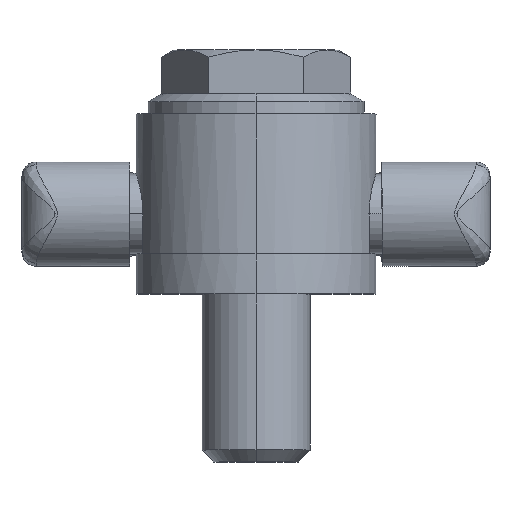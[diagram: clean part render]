
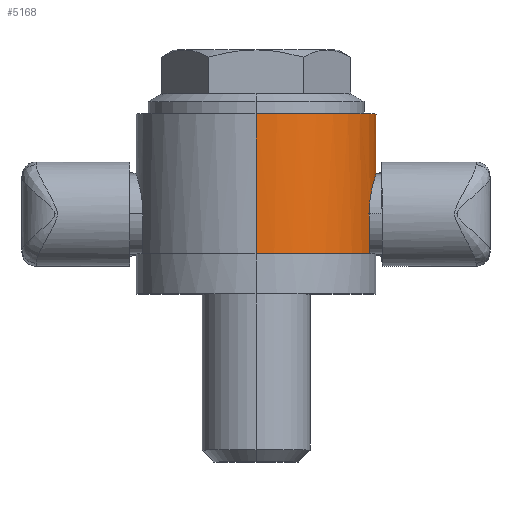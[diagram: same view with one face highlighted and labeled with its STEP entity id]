
A CAD part, top view. The second image highlights one B-rep face of the part: STEP entity #5168.
In plain terms, the highlighted cylindrical face has radius 30 mm (diameter 60 mm), a partial arc.
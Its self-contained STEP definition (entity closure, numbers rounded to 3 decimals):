
#1958 = CARTESIAN_POINT ( 'NONE',  ( 0., 50., -30. ) ) ;
#1959 = LINE ( 'NONE', #1958, #2018 ) ;
#1960 = CARTESIAN_POINT ( 'NONE',  ( 0., 10., -30. ) ) ;
#1961 = DIRECTION ( 'NONE',  ( 0., 0., -1. ) ) ;
#1962 = DIRECTION ( 'NONE',  ( 0., -1., 0. ) ) ;
#1963 = CARTESIAN_POINT ( 'NONE',  ( 0., 10., 0. ) ) ;
#1964 = AXIS2_PLACEMENT_3D ( 'NONE', #1963, #1962, #1961 ) ;
#1965 = CIRCLE ( 'NONE', #1964, 30. ) ;
#1966 = CARTESIAN_POINT ( 'NONE',  ( 28.284, 10., -10. ) ) ;
#1967 = DIRECTION ( 'NONE',  ( 0., -1., 0. ) ) ;
#1968 = VECTOR ( 'NONE', #1967, 1000. ) ;
#1969 = CARTESIAN_POINT ( 'NONE',  ( 28.284, 50., -10. ) ) ;
#1970 = LINE ( 'NONE', #1969, #1968 ) ;
#1987 = CARTESIAN_POINT ( 'NONE',  ( 0., 10., 0. ) ) ;
#1988 = CARTESIAN_POINT ( 'NONE',  ( 0., 10., 30. ) ) ;
#1989 = DIRECTION ( 'NONE',  ( 0., -1., 0. ) ) ;
#1990 = VECTOR ( 'NONE', #1989, 1000. ) ;
#1991 = CARTESIAN_POINT ( 'NONE',  ( 0., 50., 30. ) ) ;
#1992 = LINE ( 'NONE', #1991, #1990 ) ;
#1993 = CARTESIAN_POINT ( 'NONE',  ( 0., 45., -30. ) ) ;
#1994 = CARTESIAN_POINT ( 'NONE',  ( 0., 45., 30. ) ) ;
#1995 = DIRECTION ( 'NONE',  ( 0., 0., 1. ) ) ;
#1996 = DIRECTION ( 'NONE',  ( 0., 1., 0. ) ) ;
#1997 = CARTESIAN_POINT ( 'NONE',  ( 0., 45., 0. ) ) ;
#1998 = AXIS2_PLACEMENT_3D ( 'NONE', #1997, #1996, #1995 ) ;
#1999 = DIRECTION ( 'NONE',  ( 0., 0., -1. ) ) ;
#2000 = DIRECTION ( 'NONE',  ( 0., -1., 0. ) ) ;
#2001 = AXIS2_PLACEMENT_3D ( 'NONE', #2003, #2000, #1999 ) ;
#2002 = CIRCLE ( 'NONE', #1998, 30. ) ;
#2003 = CARTESIAN_POINT ( 'NONE',  ( 0., 50., 0. ) ) ;
#2004 = CYLINDRICAL_SURFACE ( 'NONE', #2001, 30. ) ;
#2005 = FACE_OUTER_BOUND ( 'NONE', #5194, .T. ) ;
#2017 = DIRECTION ( 'NONE',  ( 0., -1., 0. ) ) ;
#2018 = VECTOR ( 'NONE', #2017, 1000. ) ;
#2044 = CARTESIAN_POINT ( 'NONE',  ( 28.284, 10., 10. ) ) ;
#2045 = DIRECTION ( 'NONE',  ( 0., 0., -1. ) ) ;
#2046 = DIRECTION ( 'NONE',  ( 0., -1., 0. ) ) ;
#2047 = AXIS2_PLACEMENT_3D ( 'NONE', #1987, #2046, #2045 ) ;
#2048 = CIRCLE ( 'NONE', #2047, 30. ) ;
#2113 = CARTESIAN_POINT ( 'NONE',  ( 29.894, 29.678, -2.601 ) ) ;
#2114 = CARTESIAN_POINT ( 'NONE',  ( 29.978, 29.935, -1.315 ) ) ;
#2115 = CARTESIAN_POINT ( 'NONE',  ( 30., 30.001, -0.647 ) ) ;
#2116 = CARTESIAN_POINT ( 'NONE',  ( 30., 29.999, 0.668 ) ) ;
#2117 = CARTESIAN_POINT ( 'NONE',  ( 29.978, 29.934, 1.32 ) ) ;
#2118 = CARTESIAN_POINT ( 'NONE',  ( 29.914, 29.74, 2.29 ) ) ;
#2119 = CARTESIAN_POINT ( 'NONE',  ( 29.888, 29.658, 2.613 ) ) ;
#2120 = CARTESIAN_POINT ( 'NONE',  ( 29.826, 29.466, 3.241 ) ) ;
#2121 = CARTESIAN_POINT ( 'NONE',  ( 29.791, 29.355, 3.548 ) ) ;
#2122 = CARTESIAN_POINT ( 'NONE',  ( 29.674, 28.979, 4.449 ) ) ;
#2123 = CARTESIAN_POINT ( 'NONE',  ( 29.582, 28.672, 5.023 ) ) ;
#2124 = CARTESIAN_POINT ( 'NONE',  ( 29.376, 27.94, 6.114 ) ) ;
#2125 = CARTESIAN_POINT ( 'NONE',  ( 29.266, 27.528, 6.614 ) ) ;
#2126 = CARTESIAN_POINT ( 'NONE',  ( 29.099, 26.841, 7.301 ) ) ;
#2127 = CARTESIAN_POINT ( 'NONE',  ( 29.043, 26.601, 7.519 ) ) ;
#2128 = CARTESIAN_POINT ( 'NONE',  ( 28.933, 26.097, 7.933 ) ) ;
#2129 = CARTESIAN_POINT ( 'NONE',  ( 28.878, 25.833, 8.129 ) ) ;
#2130 = CARTESIAN_POINT ( 'NONE',  ( 28.722, 25.021, 8.673 ) ) ;
#2131 = CARTESIAN_POINT ( 'NONE',  ( 28.626, 24.449, 8.98 ) ) ;
#2132 = CARTESIAN_POINT ( 'NONE',  ( 28.504, 23.543, 9.357 ) ) ;
#2133 = CARTESIAN_POINT ( 'NONE',  ( 28.466, 23.231, 9.469 ) ) ;
#2134 = CARTESIAN_POINT ( 'NONE',  ( 28.402, 22.6, 9.662 ) ) ;
#2135 = CARTESIAN_POINT ( 'NONE',  ( 28.374, 22.282, 9.742 ) ) ;
#2136 = CARTESIAN_POINT ( 'NONE',  ( 28.308, 21.319, 9.934 ) ) ;
#2137 = CARTESIAN_POINT ( 'NONE',  ( 28.284, 20.666, 10. ) ) ;
#2138 = CARTESIAN_POINT ( 'NONE',  ( 28.284, 20., 10. ) ) ;
#2139 = B_SPLINE_CURVE_WITH_KNOTS ( 'NONE', 3,
 ( #2138, #2137, #2136, #2135, #2134, #2133, #2132, #2131, #2130, #2129, #2128, #2127, #2126, #2125, #2124, #2123, #2122, #2121, #2120, #2119, #2118, #2117, #2116, #2115, #2114, #2113, #2181, #2180, #2179, #2178, #2177, #2176, #2175, #2174, #2173, #2172, #2171, #2170, #2169, #2168, #2167, #2166, #2165, #2164, #2163, #2162 ),
 .UNSPECIFIED., .F., .F.,
 ( 4, 2, 2, 2, 2, 2, 2, 2, 2, 2, 2, 2, 2, 2, 2, 2, 2, 2, 2, 2, 2, 2, 4 ),
 ( 0., 0.002, 0.003, 0.004, 0.006, 0.007, 0.008, 0.01, 0.012, 0.013, 0.014, 0.016, 0.018, 0.02, 0.021, 0.022, 0.023, 0.024, 0.026, 0.028, 0.03, 0.03, 0.031 ),
 .UNSPECIFIED. ) ;
#2140 = CARTESIAN_POINT ( 'NONE',  ( 28.284, 20., -10. ) ) ;
#2141 = CARTESIAN_POINT ( 'NONE',  ( 28.284, 20., 10. ) ) ;
#2142 = DIRECTION ( 'NONE',  ( 0., 1., 0. ) ) ;
#2143 = VECTOR ( 'NONE', #2142, 1000. ) ;
#2144 = CARTESIAN_POINT ( 'NONE',  ( 28.284, 50., 10. ) ) ;
#2145 = LINE ( 'NONE', #2144, #2143 ) ;
#2162 = CARTESIAN_POINT ( 'NONE',  ( 28.284, 20., -10. ) ) ;
#2163 = CARTESIAN_POINT ( 'NONE',  ( 28.284, 20.333, -10. ) ) ;
#2164 = CARTESIAN_POINT ( 'NONE',  ( 28.29, 20.664, -9.983 ) ) ;
#2165 = CARTESIAN_POINT ( 'NONE',  ( 28.313, 21.324, -9.917 ) ) ;
#2166 = CARTESIAN_POINT ( 'NONE',  ( 28.331, 21.654, -9.868 ) ) ;
#2167 = CARTESIAN_POINT ( 'NONE',  ( 28.398, 22.624, -9.672 ) ) ;
#2168 = CARTESIAN_POINT ( 'NONE',  ( 28.464, 23.247, -9.48 ) ) ;
#2169 = CARTESIAN_POINT ( 'NONE',  ( 28.626, 24.45, -8.979 ) ) ;
#2170 = CARTESIAN_POINT ( 'NONE',  ( 28.724, 25.034, -8.665 ) ) ;
#2171 = CARTESIAN_POINT ( 'NONE',  ( 28.933, 26.113, -7.94 ) ) ;
#2172 = CARTESIAN_POINT ( 'NONE',  ( 29.044, 26.613, -7.53 ) ) ;
#2173 = CARTESIAN_POINT ( 'NONE',  ( 29.211, 27.303, -6.839 ) ) ;
#2174 = CARTESIAN_POINT ( 'NONE',  ( 29.267, 27.524, -6.595 ) ) ;
#2175 = CARTESIAN_POINT ( 'NONE',  ( 29.376, 27.937, -6.091 ) ) ;
#2176 = CARTESIAN_POINT ( 'NONE',  ( 29.429, 28.131, -5.83 ) ) ;
#2177 = CARTESIAN_POINT ( 'NONE',  ( 29.531, 28.492, -5.291 ) ) ;
#2178 = CARTESIAN_POINT ( 'NONE',  ( 29.58, 28.659, -5.013 ) ) ;
#2179 = CARTESIAN_POINT ( 'NONE',  ( 29.671, 28.967, -4.438 ) ) ;
#2180 = CARTESIAN_POINT ( 'NONE',  ( 29.715, 29.109, -4.14 ) ) ;
#2181 = CARTESIAN_POINT ( 'NONE',  ( 29.832, 29.488, -3.227 ) ) ;
#5155 = EDGE_CURVE ( 'NONE', #5240, #5156, #1970, .T. ) ;
#5156 = VERTEX_POINT ( 'NONE', #1966 ) ;
#5157 = ORIENTED_EDGE ( 'NONE', *, *, #5158, .F. ) ;
#5158 = EDGE_CURVE ( 'NONE', #5159, #5156, #1965, .T. ) ;
#5159 = VERTEX_POINT ( 'NONE', #1960 ) ;
#5160 = ORIENTED_EDGE ( 'NONE', *, *, #5161, .F. ) ;
#5161 = EDGE_CURVE ( 'NONE', #5172, #5159, #1959, .T. ) ;
#5168 = ADVANCED_FACE ( 'NONE', ( #2005 ), #2004, .T. ) ;
#5169 = ORIENTED_EDGE ( 'NONE', *, *, #5170, .F. ) ;
#5170 = EDGE_CURVE ( 'NONE', #5171, #5172, #2002, .T. ) ;
#5171 = VERTEX_POINT ( 'NONE', #1994 ) ;
#5172 = VERTEX_POINT ( 'NONE', #1993 ) ;
#5173 = ORIENTED_EDGE ( 'NONE', *, *, #5174, .T. ) ;
#5174 = EDGE_CURVE ( 'NONE', #5171, #5175, #1992, .T. ) ;
#5175 = VERTEX_POINT ( 'NONE', #1988 ) ;
#5176 = ORIENTED_EDGE ( 'NONE', *, *, #5177, .F. ) ;
#5177 = EDGE_CURVE ( 'NONE', #5178, #5175, #2048, .T. ) ;
#5178 = VERTEX_POINT ( 'NONE', #2044 ) ;
#5179 = ORIENTED_EDGE ( 'NONE', *, *, #5236, .T. ) ;
#5194 = EDGE_LOOP ( 'NONE', ( #5169, #5173, #5176, #5179, #5238, #5241, #5157, #5160 ) ) ;
#5236 = EDGE_CURVE ( 'NONE', #5178, #5237, #2145, .T. ) ;
#5237 = VERTEX_POINT ( 'NONE', #2141 ) ;
#5238 = ORIENTED_EDGE ( 'NONE', *, *, #5239, .T. ) ;
#5239 = EDGE_CURVE ( 'NONE', #5237, #5240, #2139, .T. ) ;
#5240 = VERTEX_POINT ( 'NONE', #2140 ) ;
#5241 = ORIENTED_EDGE ( 'NONE', *, *, #5155, .T. ) ;
